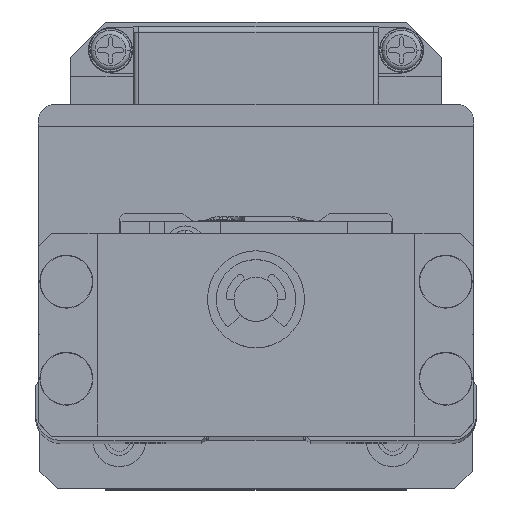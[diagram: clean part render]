
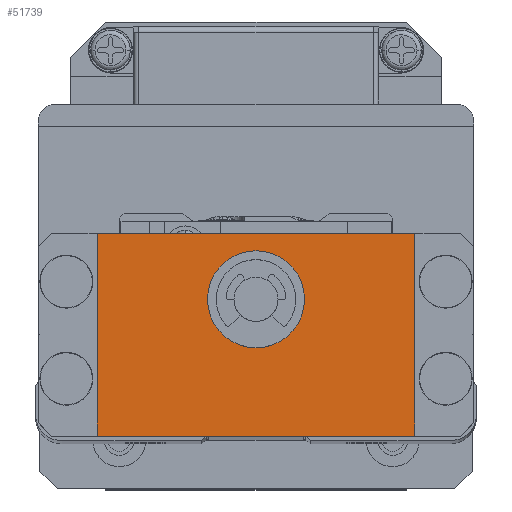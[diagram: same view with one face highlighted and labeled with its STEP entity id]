
A CAD part, top view. The second image highlights one B-rep face of the part: STEP entity #51739.
In plain terms, the highlighted planar face has unit normal (0, 0, 1) as drawn and (1, 0, 0) by its records, which use the part's own axes.
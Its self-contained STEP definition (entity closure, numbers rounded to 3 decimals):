
#47 = EDGE_CURVE ( 'NONE', #30899, #41505, #5199, .T. ) ;
#2183 = DIRECTION ( 'NONE',  ( 0., -1., 0. ) ) ;
#2337 = FACE_OUTER_BOUND ( 'NONE', #59796, .T. ) ;
#3591 = CARTESIAN_POINT ( 'NONE',  ( 210., 0., 0. ) ) ;
#4149 = VECTOR ( 'NONE', #64831, 1000. ) ;
#5199 = LINE ( 'NONE', #31242, #63480 ) ;
#5970 = LINE ( 'NONE', #41464, #4149 ) ;
#7274 = EDGE_CURVE ( 'NONE', #41505, #22981, #5970, .T. ) ;
#7449 = CARTESIAN_POINT ( 'NONE',  ( 210., -15.5, 18. ) ) ;
#8229 = CARTESIAN_POINT ( 'NONE',  ( 210., 0., -5.5 ) ) ;
#9418 = DIRECTION ( 'NONE',  ( 0., 0., -1. ) ) ;
#11899 = CARTESIAN_POINT ( 'NONE',  ( 210., -15.5, -18. ) ) ;
#13967 = AXIS2_PLACEMENT_3D ( 'NONE', #53211, #18365, #59073 ) ;
#15908 = DIRECTION ( 'NONE',  ( -1., 0., 0. ) ) ;
#15966 = FACE_BOUND ( 'NONE', #74300, .T. ) ;
#16307 = EDGE_CURVE ( 'NONE', #50329, #64805, #71333, .T. ) ;
#17402 = ORIENTED_EDGE ( 'NONE', *, *, #67685, .T. ) ;
#18365 = DIRECTION ( 'NONE',  ( -1., 0., 0. ) ) ;
#18401 = ORIENTED_EDGE ( 'NONE', *, *, #7274, .T. ) ;
#22832 = VERTEX_POINT ( 'NONE', #65281 ) ;
#22981 = VERTEX_POINT ( 'NONE', #72915 ) ;
#24639 = CARTESIAN_POINT ( 'NONE',  ( 210., 0., 5.5 ) ) ;
#25865 = EDGE_CURVE ( 'NONE', #22981, #22832, #28218, .T. ) ;
#28218 = LINE ( 'NONE', #11899, #41892 ) ;
#30528 = ORIENTED_EDGE ( 'NONE', *, *, #16307, .T. ) ;
#30899 = VERTEX_POINT ( 'NONE', #74263 ) ;
#31242 = CARTESIAN_POINT ( 'NONE',  ( 210., 7.5, 18. ) ) ;
#39201 = AXIS2_PLACEMENT_3D ( 'NONE', #50697, #15908, #56597 ) ;
#40577 = VECTOR ( 'NONE', #41800, 1000. ) ;
#41464 = CARTESIAN_POINT ( 'NONE',  ( 210., -15.5, 18. ) ) ;
#41505 = VERTEX_POINT ( 'NONE', #7449 ) ;
#41800 = DIRECTION ( 'NONE',  ( 0., 0., 1. ) ) ;
#41892 = VECTOR ( 'NONE', #53118, 1000. ) ;
#42393 = LINE ( 'NONE', #59059, #40577 ) ;
#43963 = ORIENTED_EDGE ( 'NONE', *, *, #25865, .T. ) ;
#44333 = DIRECTION ( 'NONE',  ( 1., 0., 0. ) ) ;
#46485 = CIRCLE ( 'NONE', #13967, 5.5 ) ;
#50329 = VERTEX_POINT ( 'NONE', #8229 ) ;
#50697 = CARTESIAN_POINT ( 'NONE',  ( 210., 0., 0. ) ) ;
#51739 = ADVANCED_FACE ( 'NONE', ( #2337, #15966 ), #55735, .T. ) ;
#53118 = DIRECTION ( 'NONE',  ( 0., 1., 0. ) ) ;
#53211 = CARTESIAN_POINT ( 'NONE',  ( 210., 0., 0. ) ) ;
#54994 = ORIENTED_EDGE ( 'NONE', *, *, #75192, .T. ) ;
#55735 = PLANE ( 'NONE',  #67119 ) ;
#56597 = DIRECTION ( 'NONE',  ( 0., 0., 1. ) ) ;
#59059 = CARTESIAN_POINT ( 'NONE',  ( 210., 7.5, -18. ) ) ;
#59073 = DIRECTION ( 'NONE',  ( 0., 0., 1. ) ) ;
#59796 = EDGE_LOOP ( 'NONE', ( #59989, #18401, #43963, #17402 ) ) ;
#59989 = ORIENTED_EDGE ( 'NONE', *, *, #47, .T. ) ;
#63480 = VECTOR ( 'NONE', #2183, 1000. ) ;
#64805 = VERTEX_POINT ( 'NONE', #24639 ) ;
#64831 = DIRECTION ( 'NONE',  ( 0., 0., -1. ) ) ;
#65281 = CARTESIAN_POINT ( 'NONE',  ( 210., 7.5, -18. ) ) ;
#67119 = AXIS2_PLACEMENT_3D ( 'NONE', #3591, #44333, #9418 ) ;
#67685 = EDGE_CURVE ( 'NONE', #22832, #30899, #42393, .T. ) ;
#71333 = CIRCLE ( 'NONE', #39201, 5.5 ) ;
#72915 = CARTESIAN_POINT ( 'NONE',  ( 210., -15.5, -18. ) ) ;
#74263 = CARTESIAN_POINT ( 'NONE',  ( 210., 7.5, 18. ) ) ;
#74300 = EDGE_LOOP ( 'NONE', ( #54994, #30528 ) ) ;
#75192 = EDGE_CURVE ( 'NONE', #64805, #50329, #46485, .T. ) ;
